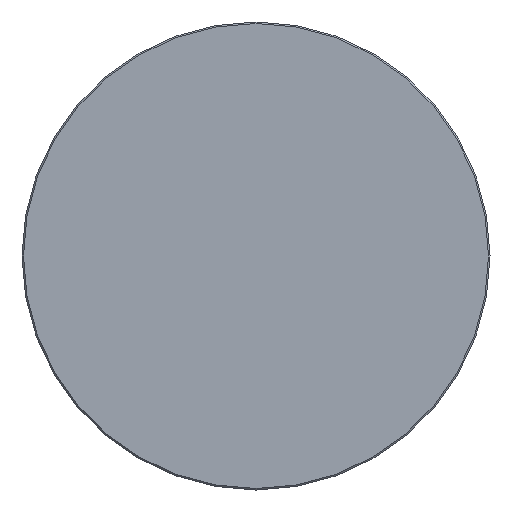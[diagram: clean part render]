
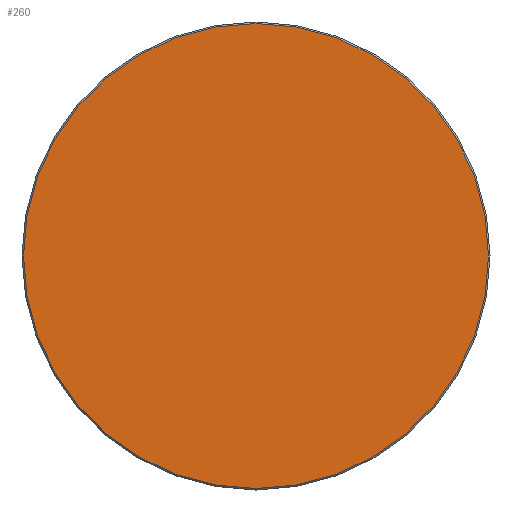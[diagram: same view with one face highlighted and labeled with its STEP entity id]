
A CAD part, left-side view. The second image highlights one B-rep face of the part: STEP entity #260.
In plain terms, the highlighted planar face has unit normal (-1, 0, 0).
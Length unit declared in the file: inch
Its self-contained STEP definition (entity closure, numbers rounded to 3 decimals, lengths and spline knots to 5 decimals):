
#18 = ORIENTED_EDGE ( 'NONE', *, *, #288, .T. ) ;
#28 = ORIENTED_EDGE ( 'NONE', *, *, #236, .T. ) ;
#54 = DIRECTION ( 'NONE',  ( -1., 0., 0. ) ) ;
#64 = AXIS2_PLACEMENT_3D ( 'NONE', #305, #247, #371 ) ;
#67 = CIRCLE ( 'NONE', #117, 0.621 ) ;
#72 = DIRECTION ( 'NONE',  ( -1., 0., 0. ) ) ;
#78 = CARTESIAN_POINT ( 'NONE',  ( 0., 0., 0. ) ) ;
#79 = CARTESIAN_POINT ( 'NONE',  ( 0., -0.621, 0. ) ) ;
#110 = CARTESIAN_POINT ( 'NONE',  ( 0., 0., 0. ) ) ;
#117 = AXIS2_PLACEMENT_3D ( 'NONE', #110, #54, #282 ) ;
#139 = VERTEX_POINT ( 'NONE', #79 ) ;
#173 = EDGE_LOOP ( 'NONE', ( #28, #18 ) ) ;
#214 = CARTESIAN_POINT ( 'NONE',  ( 0., 0.621, 0. ) ) ;
#217 = PLANE ( 'NONE',  #284 ) ;
#236 = EDGE_CURVE ( 'NONE', #348, #139, #238, .T. ) ;
#238 = CIRCLE ( 'NONE', #64, 0.621 ) ;
#247 = DIRECTION ( 'NONE',  ( -1., 0., 0. ) ) ;
#260 = ADVANCED_FACE ( 'NONE', ( #356 ), #217, .T. ) ;
#269 = DIRECTION ( 'NONE',  ( 0., -1., 0. ) ) ;
#282 = DIRECTION ( 'NONE',  ( 0., -1., 0. ) ) ;
#284 = AXIS2_PLACEMENT_3D ( 'NONE', #78, #72, #269 ) ;
#288 = EDGE_CURVE ( 'NONE', #139, #348, #67, .T. ) ;
#305 = CARTESIAN_POINT ( 'NONE',  ( 0., 0., 0. ) ) ;
#348 = VERTEX_POINT ( 'NONE', #214 ) ;
#356 = FACE_OUTER_BOUND ( 'NONE', #173, .T. ) ;
#371 = DIRECTION ( 'NONE',  ( 0., -1., 0. ) ) ;
